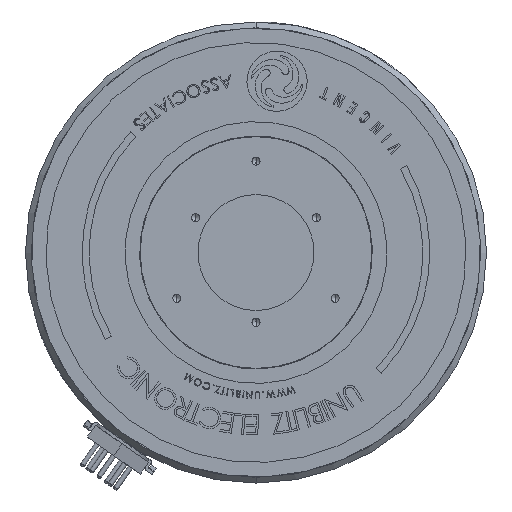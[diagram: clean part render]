
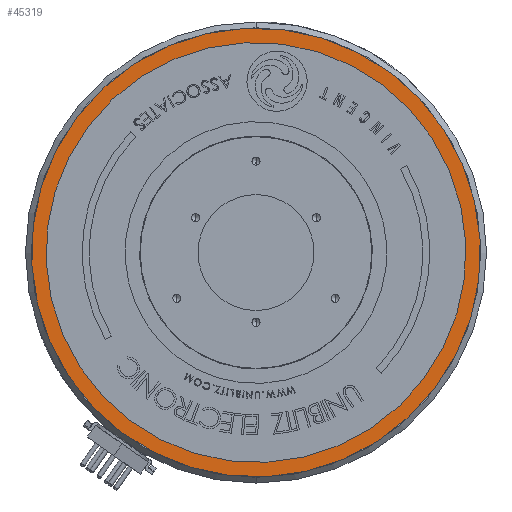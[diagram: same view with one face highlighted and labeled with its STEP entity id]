
A CAD part, front view. The second image highlights one B-rep face of the part: STEP entity #45319.
In plain terms, the highlighted planar face has unit normal (0, -1, 0).
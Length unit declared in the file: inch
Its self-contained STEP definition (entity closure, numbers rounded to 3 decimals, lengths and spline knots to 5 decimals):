
#28971 = CARTESIAN_POINT ( 'NONE',  ( 0., 0.035, 0. ) ) ;
#28977 = AXIS2_PLACEMENT_3D ( 'NONE', #28971, #29024, #29022 ) ;
#28980 = CIRCLE ( 'NONE', #28977, 1.9375 ) ;
#29022 = DIRECTION ( 'NONE',  ( -0.993, 0., 0.122 ) ) ;
#29024 = DIRECTION ( 'NONE',  ( 0., -1., 0. ) ) ;
#44642 = ORIENTED_EDGE ( 'NONE', *, *, #79112, .F. ) ;
#45124 = EDGE_CURVE ( 'NONE', #79076, #79075, #46417, .T. ) ;
#45125 = ORIENTED_EDGE ( 'NONE', *, *, #45124, .F. ) ;
#45319 = ADVANCED_FACE ( 'NONE', ( #46457, #46468 ), #46466, .T. ) ;
#45362 = EDGE_LOOP ( 'NONE', ( #44642, #45125 ) ) ;
#45369 = EDGE_LOOP ( 'NONE', ( #45857, #45873 ) ) ;
#45857 = ORIENTED_EDGE ( 'NONE', *, *, #57574, .T. ) ;
#45873 = ORIENTED_EDGE ( 'NONE', *, *, #79331, .T. ) ;
#46417 = CIRCLE ( 'NONE', #46456, 1.8125 ) ;
#46453 = DIRECTION ( 'NONE',  ( -0.993, 0., 0.122 ) ) ;
#46454 = DIRECTION ( 'NONE',  ( 0., -1., 0. ) ) ;
#46455 = CARTESIAN_POINT ( 'NONE',  ( 0., 0.035, 0. ) ) ;
#46456 = AXIS2_PLACEMENT_3D ( 'NONE', #46455, #46454, #46453 ) ;
#46457 = FACE_BOUND ( 'NONE', #45362, .T. ) ;
#46461 = AXIS2_PLACEMENT_3D ( 'NONE', #46487, #46486, #46485 ) ;
#46466 = PLANE ( 'NONE',  #46461 ) ;
#46468 = FACE_OUTER_BOUND ( 'NONE', #45369, .T. ) ;
#46485 = DIRECTION ( 'NONE',  ( -0.993, 0., 0.122 ) ) ;
#46486 = DIRECTION ( 'NONE',  ( 0., -1., 0. ) ) ;
#46487 = CARTESIAN_POINT ( 'NONE',  ( 0., 0.035, 0. ) ) ;
#57574 = EDGE_CURVE ( 'NONE', #79153, #79337, #28980, .T. ) ;
#62293 = CARTESIAN_POINT ( 'NONE',  ( -1.79899, 0.035, 0.22089 ) ) ;
#62392 = CARTESIAN_POINT ( 'NONE',  ( 1.79899, 0.035, -0.22089 ) ) ;
#62407 = DIRECTION ( 'NONE',  ( -0.993, 0., 0.122 ) ) ;
#62408 = DIRECTION ( 'NONE',  ( 0., -1., 0. ) ) ;
#62415 = CARTESIAN_POINT ( 'NONE',  ( 0., 0.035, 0. ) ) ;
#62426 = AXIS2_PLACEMENT_3D ( 'NONE', #62415, #62408, #62407 ) ;
#62447 = CIRCLE ( 'NONE', #62426, 1.8125 ) ;
#62544 = CARTESIAN_POINT ( 'NONE',  ( 1.92306, 0.035, -0.23612 ) ) ;
#62991 = CIRCLE ( 'NONE', #63007, 1.9375 ) ;
#62994 = CARTESIAN_POINT ( 'NONE',  ( 0., 0.035, 0. ) ) ;
#63007 = AXIS2_PLACEMENT_3D ( 'NONE', #62994, #63031, #63030 ) ;
#63030 = DIRECTION ( 'NONE',  ( -0.993, 0., 0.122 ) ) ;
#63031 = DIRECTION ( 'NONE',  ( 0., -1., 0. ) ) ;
#63033 = CARTESIAN_POINT ( 'NONE',  ( -1.92306, 0.035, 0.23612 ) ) ;
#79075 = VERTEX_POINT ( 'NONE', #62293 ) ;
#79076 = VERTEX_POINT ( 'NONE', #62392 ) ;
#79112 = EDGE_CURVE ( 'NONE', #79075, #79076, #62447, .T. ) ;
#79153 = VERTEX_POINT ( 'NONE', #62544 ) ;
#79331 = EDGE_CURVE ( 'NONE', #79337, #79153, #62991, .T. ) ;
#79337 = VERTEX_POINT ( 'NONE', #63033 ) ;
